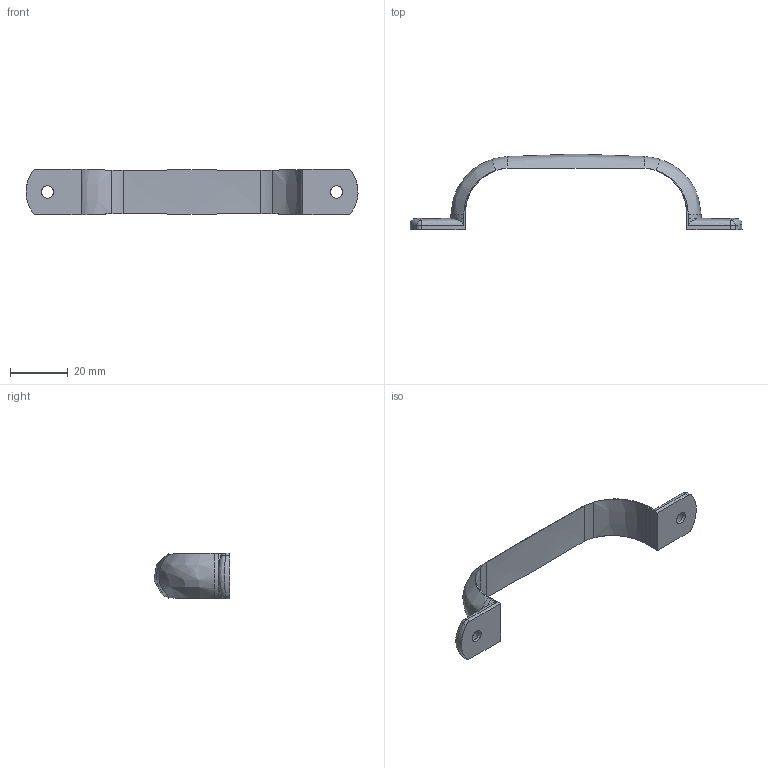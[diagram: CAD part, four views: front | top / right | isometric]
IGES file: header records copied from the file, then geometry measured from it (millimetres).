
Global section: file name: DR_A-CC100; native system: Autodesk Inventor 2015; preprocessor: unknown; author: Administrator; date: 20170707.104319; units: millimetre
Bounding box: 115.49 x 26.38 x 16 mm (x, y, z)
Volume: 7168.5 mm3; surface area: 5041.7 mm2
Topology: 1 solids, 1 shells, 56 faces, 122 edges, 68 vertices
Faces by surface type: bspline 56
